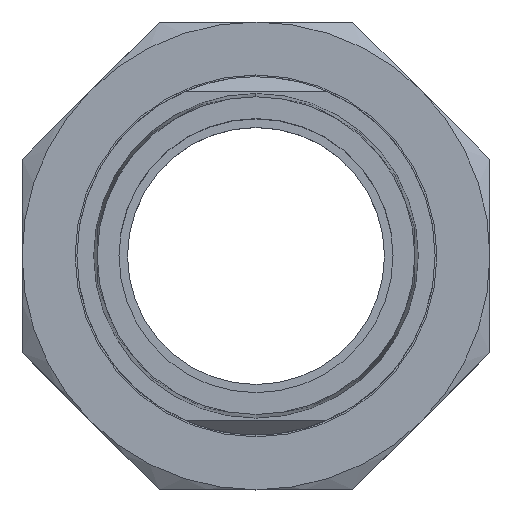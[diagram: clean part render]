
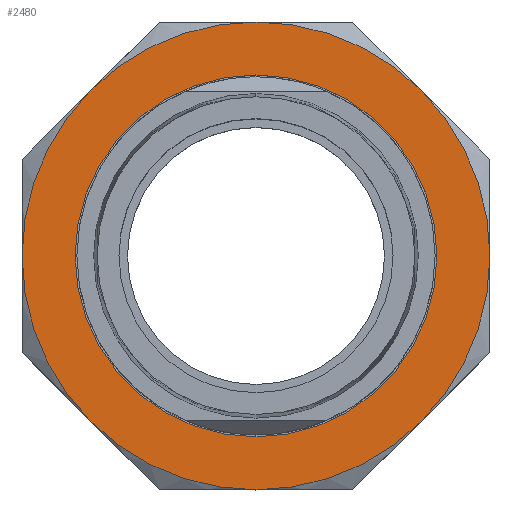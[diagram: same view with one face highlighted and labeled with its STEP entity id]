
A CAD part, top view. The second image highlights one B-rep face of the part: STEP entity #2480.
In plain terms, the highlighted planar face has unit normal (0, 0, 1).
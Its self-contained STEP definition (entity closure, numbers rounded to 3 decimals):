
#6 = VERTEX_POINT ( 'NONE', #417 ) ;
#10 = VERTEX_POINT ( 'NONE', #407 ) ;
#18 = EDGE_CURVE ( 'NONE', #6, #10, #398, .T. ) ;
#34 = ORIENTED_EDGE ( 'NONE', *, *, #2579, .F. ) ;
#36 = ORIENTED_EDGE ( 'NONE', *, *, #18, .F. ) ;
#38 = ORIENTED_EDGE ( 'NONE', *, *, #2592, .T. ) ;
#41 = EDGE_LOOP ( 'NONE', ( #38, #2465, #2416, #2419, #2418, #2421, #2424, #2422 ) ) ;
#126 = EDGE_CURVE ( 'NONE', #127, #145, #609, .T. ) ;
#127 = VERTEX_POINT ( 'NONE', #663 ) ;
#135 = EDGE_CURVE ( 'NONE', #145, #2591, #643, .T. ) ;
#145 = VERTEX_POINT ( 'NONE', #673 ) ;
#176 = VERTEX_POINT ( 'NONE', #743 ) ;
#179 = EDGE_CURVE ( 'NONE', #176, #127, #730, .T. ) ;
#394 = DIRECTION ( 'NONE',  ( 1., 0., 0. ) ) ;
#395 = DIRECTION ( 'NONE',  ( 0., 0., 1. ) ) ;
#396 = CARTESIAN_POINT ( 'NONE',  ( 0., 0., 14.5 ) ) ;
#397 = AXIS2_PLACEMENT_3D ( 'NONE', #396, #395, #394 ) ;
#398 = CIRCLE ( 'NONE', #397, 49.5 ) ;
#407 = CARTESIAN_POINT ( 'NONE',  ( 49.5, 0., 14.5 ) ) ;
#417 = CARTESIAN_POINT ( 'NONE',  ( -49.5, 0., 14.5 ) ) ;
#606 = DIRECTION ( 'NONE',  ( 0., 0., 1. ) ) ;
#607 = CARTESIAN_POINT ( 'NONE',  ( 0., 0., 14.5 ) ) ;
#608 = AXIS2_PLACEMENT_3D ( 'NONE', #607, #606, #2717 ) ;
#609 = CIRCLE ( 'NONE', #608, 64. ) ;
#610 = CARTESIAN_POINT ( 'NONE',  ( 0., 0., 14.5 ) ) ;
#639 = DIRECTION ( 'NONE',  ( 1., 0., 0. ) ) ;
#640 = DIRECTION ( 'NONE',  ( 0., 0., 1. ) ) ;
#641 = CARTESIAN_POINT ( 'NONE',  ( 0., 0., 14.5 ) ) ;
#642 = AXIS2_PLACEMENT_3D ( 'NONE', #641, #640, #639 ) ;
#643 = CIRCLE ( 'NONE', #642, 64. ) ;
#663 = CARTESIAN_POINT ( 'NONE',  ( 0., -64., 14.5 ) ) ;
#673 = CARTESIAN_POINT ( 'NONE',  ( 45.255, -45.255, 14.5 ) ) ;
#726 = DIRECTION ( 'NONE',  ( 1., 0., 0. ) ) ;
#727 = DIRECTION ( 'NONE',  ( 0., 0., 1. ) ) ;
#728 = CARTESIAN_POINT ( 'NONE',  ( 0., 0., 14.5 ) ) ;
#729 = AXIS2_PLACEMENT_3D ( 'NONE', #728, #727, #726 ) ;
#730 = CIRCLE ( 'NONE', #729, 64. ) ;
#743 = CARTESIAN_POINT ( 'NONE',  ( -45.255, -45.255, 14.5 ) ) ;
#1093 = CIRCLE ( 'NONE', #1568, 64. ) ;
#1179 = CARTESIAN_POINT ( 'NONE',  ( -45.255, 45.255, 14.5 ) ) ;
#1228 = DIRECTION ( 'NONE',  ( -1., 0., 0. ) ) ;
#1229 = DIRECTION ( 'NONE',  ( 0., 0., -1. ) ) ;
#1230 = CARTESIAN_POINT ( 'NONE',  ( 0., 64., 14.5 ) ) ;
#1231 = AXIS2_PLACEMENT_3D ( 'NONE', #1230, #1229, #1228 ) ;
#1232 = PLANE ( 'NONE',  #1231 ) ;
#1233 = FACE_OUTER_BOUND ( 'NONE', #41, .T. ) ;
#1234 = FACE_BOUND ( 'NONE', #2478, .T. ) ;
#1276 = DIRECTION ( 'NONE',  ( 1., 0., 0. ) ) ;
#1277 = DIRECTION ( 'NONE',  ( 0., 0., 1. ) ) ;
#1278 = CARTESIAN_POINT ( 'NONE',  ( 0., 0., 14.5 ) ) ;
#1279 = AXIS2_PLACEMENT_3D ( 'NONE', #1278, #1277, #1276 ) ;
#1280 = CIRCLE ( 'NONE', #1279, 64. ) ;
#1298 = CARTESIAN_POINT ( 'NONE',  ( 45.255, 45.255, 14.5 ) ) ;
#1402 = DIRECTION ( 'NONE',  ( 1., 0., 0. ) ) ;
#1403 = DIRECTION ( 'NONE',  ( 0., 0., 1. ) ) ;
#1404 = CARTESIAN_POINT ( 'NONE',  ( 0., 0., 14.5 ) ) ;
#1405 = AXIS2_PLACEMENT_3D ( 'NONE', #1404, #1403, #1402 ) ;
#1406 = CIRCLE ( 'NONE', #1405, 49.5 ) ;
#1442 = DIRECTION ( 'NONE',  ( 1., 0., 0. ) ) ;
#1443 = DIRECTION ( 'NONE',  ( 0., 0., 1. ) ) ;
#1444 = CARTESIAN_POINT ( 'NONE',  ( 0., 0., 14.5 ) ) ;
#1445 = AXIS2_PLACEMENT_3D ( 'NONE', #1444, #1443, #1442 ) ;
#1446 = CIRCLE ( 'NONE', #1445, 64. ) ;
#1447 = CARTESIAN_POINT ( 'NONE',  ( 64., 0., 14.5 ) ) ;
#1458 = CARTESIAN_POINT ( 'NONE',  ( 0., 64., 14.5 ) ) ;
#1459 = CARTESIAN_POINT ( 'NONE',  ( -64., 0., 14.5 ) ) ;
#1568 = AXIS2_PLACEMENT_3D ( 'NONE', #610, #2689, #2688 ) ;
#1642 = DIRECTION ( 'NONE',  ( 1., 0., 0. ) ) ;
#1643 = DIRECTION ( 'NONE',  ( 0., 0., 1. ) ) ;
#1644 = AXIS2_PLACEMENT_3D ( 'NONE', #1654, #1643, #1642 ) ;
#1645 = CIRCLE ( 'NONE', #1644, 64. ) ;
#1654 = CARTESIAN_POINT ( 'NONE',  ( 0., 0., 14.5 ) ) ;
#1772 = DIRECTION ( 'NONE',  ( 1., 0., 0. ) ) ;
#1773 = DIRECTION ( 'NONE',  ( 0., 0., 1. ) ) ;
#1774 = CARTESIAN_POINT ( 'NONE',  ( 0., 0., 14.5 ) ) ;
#1775 = AXIS2_PLACEMENT_3D ( 'NONE', #1774, #1773, #1772 ) ;
#1776 = CIRCLE ( 'NONE', #1775, 64. ) ;
#2416 = ORIENTED_EDGE ( 'NONE', *, *, #2726, .T. ) ;
#2418 = ORIENTED_EDGE ( 'NONE', *, *, #2652, .T. ) ;
#2419 = ORIENTED_EDGE ( 'NONE', *, *, #2664, .T. ) ;
#2421 = ORIENTED_EDGE ( 'NONE', *, *, #179, .T. ) ;
#2422 = ORIENTED_EDGE ( 'NONE', *, *, #135, .T. ) ;
#2424 = ORIENTED_EDGE ( 'NONE', *, *, #126, .T. ) ;
#2435 = VERTEX_POINT ( 'NONE', #1179 ) ;
#2465 = ORIENTED_EDGE ( 'NONE', *, *, #2530, .T. ) ;
#2478 = EDGE_LOOP ( 'NONE', ( #34, #36 ) ) ;
#2480 = ADVANCED_FACE ( 'NONE', ( #1234, #1233 ), #1232, .F. ) ;
#2524 = VERTEX_POINT ( 'NONE', #1298 ) ;
#2530 = EDGE_CURVE ( 'NONE', #2524, #2621, #1280, .T. ) ;
#2579 = EDGE_CURVE ( 'NONE', #10, #6, #1406, .T. ) ;
#2591 = VERTEX_POINT ( 'NONE', #1447 ) ;
#2592 = EDGE_CURVE ( 'NONE', #2591, #2524, #1446, .T. ) ;
#2619 = VERTEX_POINT ( 'NONE', #1459 ) ;
#2621 = VERTEX_POINT ( 'NONE', #1458 ) ;
#2652 = EDGE_CURVE ( 'NONE', #2619, #176, #1093, .T. ) ;
#2664 = EDGE_CURVE ( 'NONE', #2435, #2619, #1645, .T. ) ;
#2688 = DIRECTION ( 'NONE',  ( 1., 0., 0. ) ) ;
#2689 = DIRECTION ( 'NONE',  ( 0., 0., 1. ) ) ;
#2717 = DIRECTION ( 'NONE',  ( 1., 0., 0. ) ) ;
#2726 = EDGE_CURVE ( 'NONE', #2621, #2435, #1776, .T. ) ;
